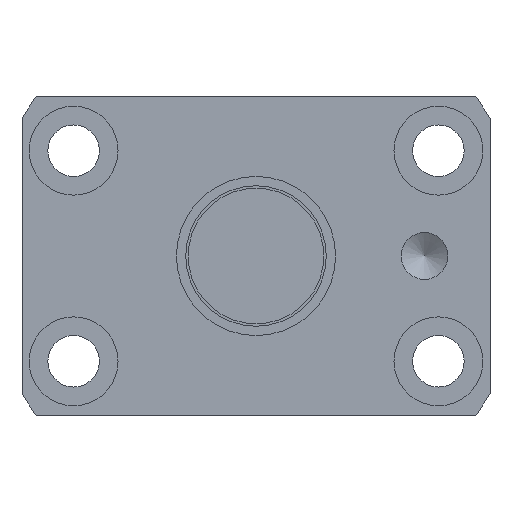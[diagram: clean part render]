
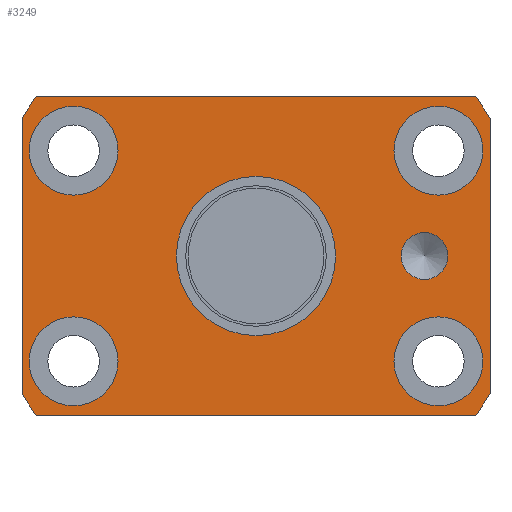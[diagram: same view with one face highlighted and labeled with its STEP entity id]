
A CAD part, left-side view. The second image highlights one B-rep face of the part: STEP entity #3249.
In plain terms, the highlighted planar face has unit normal (-1, 0, 0).
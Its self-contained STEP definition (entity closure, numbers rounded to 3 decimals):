
#24 = DIRECTION ( 'NONE',  ( 0., 1., 0. ) ) ;
#28 = DIRECTION ( 'NONE',  ( 0., 0., 1. ) ) ;
#42 = AXIS2_PLACEMENT_3D ( 'NONE', #657, #893, #2485 ) ;
#55 = VERTEX_POINT ( 'NONE', #2543 ) ;
#68 = LINE ( 'NONE', #577, #2689 ) ;
#84 = CARTESIAN_POINT ( 'NONE',  ( 0., 25., -14.697 ) ) ;
#136 = CARTESIAN_POINT ( 'NONE',  ( 0., 25., -14.697 ) ) ;
#145 = LINE ( 'NONE', #2197, #1084 ) ;
#173 = AXIS2_PLACEMENT_3D ( 'NONE', #2632, #910, #1121 ) ;
#175 = DIRECTION ( 'NONE',  ( 0., 0., 1. ) ) ;
#187 = EDGE_CURVE ( 'NONE', #924, #924, #2565, .T. ) ;
#204 = CARTESIAN_POINT ( 'NONE',  ( 0., -14.736, -11.25 ) ) ;
#240 = VERTEX_POINT ( 'NONE', #1769 ) ;
#263 = FACE_BOUND ( 'NONE', #1601, .T. ) ;
#303 = DIRECTION ( 'NONE',  ( 0., 1., 0. ) ) ;
#320 = DIRECTION ( 'NONE',  ( 1., 0., 0. ) ) ;
#375 = FACE_BOUND ( 'NONE', #451, .T. ) ;
#377 = CIRCLE ( 'NONE', #1771, 4.75 ) ;
#441 = CIRCLE ( 'NONE', #1610, 4.75 ) ;
#451 = EDGE_LOOP ( 'NONE', ( #2008 ) ) ;
#454 = CARTESIAN_POINT ( 'NONE',  ( 0., -23.495, -17. ) ) ;
#478 = CIRCLE ( 'NONE', #42, 29. ) ;
#513 = LINE ( 'NONE', #2561, #1037 ) ;
#549 = EDGE_LOOP ( 'NONE', ( #3163 ) ) ;
#557 = ORIENTED_EDGE ( 'NONE', *, *, #1999, .F. ) ;
#565 = DIRECTION ( 'NONE',  ( 0., 1., 0. ) ) ;
#577 = CARTESIAN_POINT ( 'NONE',  ( 0., -23.495, -17. ) ) ;
#632 = DIRECTION ( 'NONE',  ( 0., 0., 1. ) ) ;
#657 = CARTESIAN_POINT ( 'NONE',  ( 0., 0., 0. ) ) ;
#724 = DIRECTION ( 'NONE',  ( 1., 0., 0. ) ) ;
#745 = EDGE_CURVE ( 'NONE', #1096, #1218, #1236, .T. ) ;
#746 = EDGE_CURVE ( 'NONE', #2668, #55, #478, .T. ) ;
#793 = FACE_BOUND ( 'NONE', #3021, .T. ) ;
#845 = DIRECTION ( 'NONE',  ( 0., 1., 0. ) ) ;
#851 = DIRECTION ( 'NONE',  ( 1., 0., 0. ) ) ;
#867 = AXIS2_PLACEMENT_3D ( 'NONE', #1852, #320, #565 ) ;
#893 = DIRECTION ( 'NONE',  ( 1., 0., 0. ) ) ;
#903 = VERTEX_POINT ( 'NONE', #2959 ) ;
#909 = ORIENTED_EDGE ( 'NONE', *, *, #2404, .F. ) ;
#910 = DIRECTION ( 'NONE',  ( 1., 0., 0. ) ) ;
#924 = VERTEX_POINT ( 'NONE', #944 ) ;
#944 = CARTESIAN_POINT ( 'NONE',  ( 0., -18., 2.5 ) ) ;
#1037 = VECTOR ( 'NONE', #1476, 1000. ) ;
#1045 = PLANE ( 'NONE',  #2486 ) ;
#1084 = VECTOR ( 'NONE', #2669, 1000. ) ;
#1088 = DIRECTION ( 'NONE',  ( 0., 1., 0. ) ) ;
#1096 = VERTEX_POINT ( 'NONE', #1512 ) ;
#1121 = DIRECTION ( 'NONE',  ( 0., 1., 0. ) ) ;
#1122 = CARTESIAN_POINT ( 'NONE',  ( 0., 23.495, -17. ) ) ;
#1131 = EDGE_CURVE ( 'NONE', #2240, #2240, #377, .T. ) ;
#1148 = EDGE_LOOP ( 'NONE', ( #1658 ) ) ;
#1153 = FACE_OUTER_BOUND ( 'NONE', #2220, .T. ) ;
#1218 = VERTEX_POINT ( 'NONE', #454 ) ;
#1236 = CIRCLE ( 'NONE', #3108, 29. ) ;
#1240 = DIRECTION ( 'NONE',  ( -1., 0., 0. ) ) ;
#1303 = EDGE_LOOP ( 'NONE', ( #1331 ) ) ;
#1331 = ORIENTED_EDGE ( 'NONE', *, *, #1472, .T. ) ;
#1342 = ORIENTED_EDGE ( 'NONE', *, *, #1505, .F. ) ;
#1353 = CIRCLE ( 'NONE', #1515, 29. ) ;
#1383 = VERTEX_POINT ( 'NONE', #136 ) ;
#1408 = CIRCLE ( 'NONE', #2911, 4.75 ) ;
#1414 = DIRECTION ( 'NONE',  ( 0., 1., 0. ) ) ;
#1472 = EDGE_CURVE ( 'NONE', #2754, #2754, #1606, .T. ) ;
#1476 = DIRECTION ( 'NONE',  ( 0., -1., 0. ) ) ;
#1501 = EDGE_CURVE ( 'NONE', #1218, #3047, #68, .T. ) ;
#1505 = EDGE_CURVE ( 'NONE', #2165, #1638, #3294, .T. ) ;
#1512 = CARTESIAN_POINT ( 'NONE',  ( 0., -25., -14.697 ) ) ;
#1515 = AXIS2_PLACEMENT_3D ( 'NONE', #1851, #2662, #845 ) ;
#1543 = FACE_BOUND ( 'NONE', #549, .T. ) ;
#1566 = ORIENTED_EDGE ( 'NONE', *, *, #745, .F. ) ;
#1574 = CARTESIAN_POINT ( 'NONE',  ( 0., -23.495, 17. ) ) ;
#1601 = EDGE_LOOP ( 'NONE', ( #3175 ) ) ;
#1606 = CIRCLE ( 'NONE', #867, 4.75 ) ;
#1610 = AXIS2_PLACEMENT_3D ( 'NONE', #3026, #724, #1741 ) ;
#1638 = VERTEX_POINT ( 'NONE', #3138 ) ;
#1657 = DIRECTION ( 'NONE',  ( 1., 0., 0. ) ) ;
#1658 = ORIENTED_EDGE ( 'NONE', *, *, #2497, .T. ) ;
#1741 = DIRECTION ( 'NONE',  ( 0., 1., 0. ) ) ;
#1751 = EDGE_CURVE ( 'NONE', #1383, #2668, #2035, .T. ) ;
#1769 = CARTESIAN_POINT ( 'NONE',  ( 0., 8.5, 0. ) ) ;
#1771 = AXIS2_PLACEMENT_3D ( 'NONE', #2050, #3081, #3012 ) ;
#1840 = CARTESIAN_POINT ( 'NONE',  ( 0., -19.486, 11.25 ) ) ;
#1851 = CARTESIAN_POINT ( 'NONE',  ( 0., 0., 0. ) ) ;
#1852 = CARTESIAN_POINT ( 'NONE',  ( 0., 19.486, 11.25 ) ) ;
#1870 = CARTESIAN_POINT ( 'NONE',  ( 0., 12.75, 0. ) ) ;
#1999 = EDGE_CURVE ( 'NONE', #55, #2165, #513, .T. ) ;
#2008 = ORIENTED_EDGE ( 'NONE', *, *, #2061, .T. ) ;
#2035 = LINE ( 'NONE', #84, #2479 ) ;
#2050 = CARTESIAN_POINT ( 'NONE',  ( 0., -19.486, -11.25 ) ) ;
#2061 = EDGE_CURVE ( 'NONE', #3024, #3024, #441, .T. ) ;
#2094 = EDGE_CURVE ( 'NONE', #903, #903, #1408, .T. ) ;
#2165 = VERTEX_POINT ( 'NONE', #1574 ) ;
#2197 = CARTESIAN_POINT ( 'NONE',  ( 0., -25., 14.697 ) ) ;
#2220 = EDGE_LOOP ( 'NONE', ( #2759, #1566, #3331, #1342, #557, #2234, #2616, #909 ) ) ;
#2234 = ORIENTED_EDGE ( 'NONE', *, *, #746, .F. ) ;
#2240 = VERTEX_POINT ( 'NONE', #204 ) ;
#2354 = DIRECTION ( 'NONE',  ( 1., 0., 0. ) ) ;
#2364 = CIRCLE ( 'NONE', #173, 8.5 ) ;
#2374 = DIRECTION ( 'NONE',  ( -1., 0., 0. ) ) ;
#2404 = EDGE_CURVE ( 'NONE', #3047, #1383, #1353, .T. ) ;
#2466 = CARTESIAN_POINT ( 'NONE',  ( 0., 24.236, 11.25 ) ) ;
#2468 = CARTESIAN_POINT ( 'NONE',  ( 0., 0., 0. ) ) ;
#2479 = VECTOR ( 'NONE', #28, 1000. ) ;
#2485 = DIRECTION ( 'NONE',  ( 0., 1., 0. ) ) ;
#2486 = AXIS2_PLACEMENT_3D ( 'NONE', #1870, #2374, #632 ) ;
#2497 = EDGE_CURVE ( 'NONE', #240, #240, #2364, .T. ) ;
#2499 = CARTESIAN_POINT ( 'NONE',  ( 0., 24.236, -11.25 ) ) ;
#2503 = ORIENTED_EDGE ( 'NONE', *, *, #1131, .T. ) ;
#2543 = CARTESIAN_POINT ( 'NONE',  ( 0., 23.495, 17. ) ) ;
#2561 = CARTESIAN_POINT ( 'NONE',  ( 0., 23.495, 17. ) ) ;
#2565 = CIRCLE ( 'NONE', #2675, 2.5 ) ;
#2567 = FACE_BOUND ( 'NONE', #1148, .T. ) ;
#2612 = EDGE_CURVE ( 'NONE', #1638, #1096, #145, .T. ) ;
#2615 = CARTESIAN_POINT ( 'NONE',  ( 0., 0., 0. ) ) ;
#2616 = ORIENTED_EDGE ( 'NONE', *, *, #1751, .F. ) ;
#2632 = CARTESIAN_POINT ( 'NONE',  ( 0., 0., 0. ) ) ;
#2662 = DIRECTION ( 'NONE',  ( 1., 0., 0. ) ) ;
#2668 = VERTEX_POINT ( 'NONE', #2952 ) ;
#2669 = DIRECTION ( 'NONE',  ( 0., 0., -1. ) ) ;
#2675 = AXIS2_PLACEMENT_3D ( 'NONE', #2717, #1240, #175 ) ;
#2689 = VECTOR ( 'NONE', #1088, 1000. ) ;
#2717 = CARTESIAN_POINT ( 'NONE',  ( 0., -18., 0. ) ) ;
#2754 = VERTEX_POINT ( 'NONE', #2466 ) ;
#2759 = ORIENTED_EDGE ( 'NONE', *, *, #1501, .F. ) ;
#2801 = AXIS2_PLACEMENT_3D ( 'NONE', #2615, #851, #303 ) ;
#2911 = AXIS2_PLACEMENT_3D ( 'NONE', #1840, #2354, #24 ) ;
#2952 = CARTESIAN_POINT ( 'NONE',  ( 0., 25., 14.697 ) ) ;
#2959 = CARTESIAN_POINT ( 'NONE',  ( 0., -14.736, 11.25 ) ) ;
#3012 = DIRECTION ( 'NONE',  ( 0., 1., 0. ) ) ;
#3021 = EDGE_LOOP ( 'NONE', ( #2503 ) ) ;
#3024 = VERTEX_POINT ( 'NONE', #2499 ) ;
#3026 = CARTESIAN_POINT ( 'NONE',  ( 0., 19.486, -11.25 ) ) ;
#3047 = VERTEX_POINT ( 'NONE', #1122 ) ;
#3081 = DIRECTION ( 'NONE',  ( 1., 0., 0. ) ) ;
#3108 = AXIS2_PLACEMENT_3D ( 'NONE', #2468, #1657, #1414 ) ;
#3138 = CARTESIAN_POINT ( 'NONE',  ( 0., -25., 14.697 ) ) ;
#3163 = ORIENTED_EDGE ( 'NONE', *, *, #187, .F. ) ;
#3175 = ORIENTED_EDGE ( 'NONE', *, *, #2094, .T. ) ;
#3191 = FACE_BOUND ( 'NONE', #1303, .T. ) ;
#3249 = ADVANCED_FACE ( 'NONE', ( #1543, #375, #263, #793, #3191, #1153, #2567 ), #1045, .T. ) ;
#3294 = CIRCLE ( 'NONE', #2801, 29. ) ;
#3331 = ORIENTED_EDGE ( 'NONE', *, *, #2612, .F. ) ;
